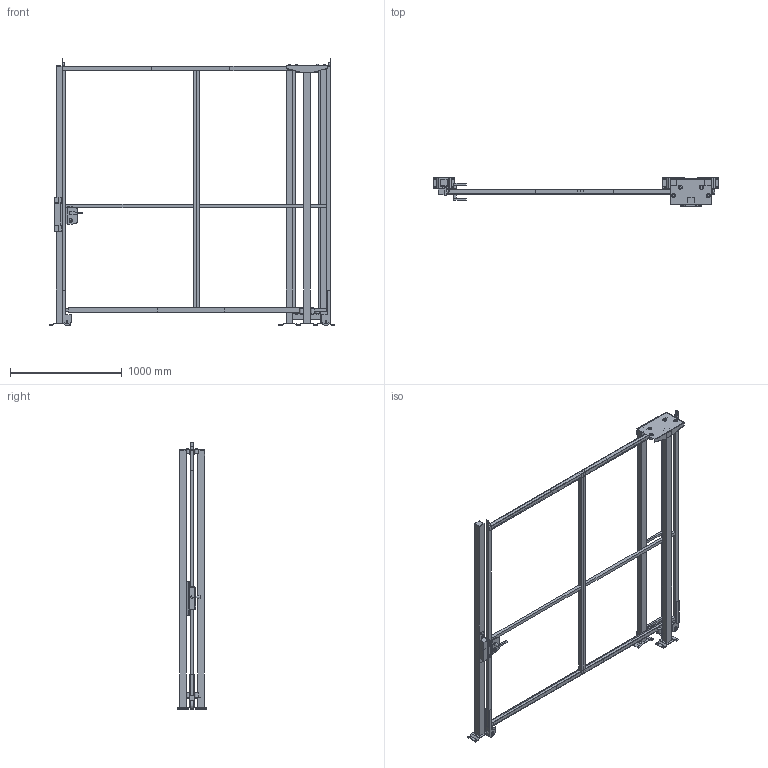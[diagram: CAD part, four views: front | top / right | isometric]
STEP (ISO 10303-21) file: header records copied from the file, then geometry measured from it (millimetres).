
FILE_DESCRIPTION(/* description */ (''),/* implementation_level */ '2;1');
FILE_NAME(/* name */ 'C:\SafeGuarding\ELABORATI\KLADKOUGAMMA_2025-03-21-09-30-59.stp',/* time_stamp */ '2025-03-21T09:31:05+01:00',/* author */ ('admin'),/* organization */ (''),/* preprocessor_version */ 'ST-DEVELOPER v18.1',/* originating_system */ 'AutoCAD Mechanical',/* authorisation */ '');
FILE_SCHEMA (('AUTOMOTIVE_DESIGN { 1 0 10303 214 3 1 1 }'));
Length unit declared in the file: millimetre
Products named in the file (4): Product; R_VFPA.REPE30.12002200; R_VFPA.REPE20.02502200; P_VFMA.V260SDU.2320
Assembly tree (7 placements, depth 2):
  Product
    R_VFPA.REPE30.12002200  x2
    P_VFMA.V260SDU.2320  x4
    R_VFPA.REPE20.02502200
Bounding box: 2561.92 x 264 x 2390.02 mm (x, y, z)
Volume: 54043157.4 mm3; surface area: 7008288.9 mm2
Topology: 67 solids, 67 shells, 602 faces, 1746 edges, 1724 vertices
Faces by surface type: plane 524, cylinder 74, bspline 4
Full cylindrical faces by diameter (mm): 9 x4, 11 x16, 13 x4, 18 x1, 25 x2, 25.398 x2, 30 x6, 36 x8, 80 x2
Entity records: 16637 total; most frequent: CARTESIAN_POINT 4311, DIRECTION 2462, ORIENTED_EDGE 2230, EDGE_CURVE 1115, LINE 1084, VECTOR 1084, VERTEX_POINT 750, AXIS2_PLACEMENT_3D 689
